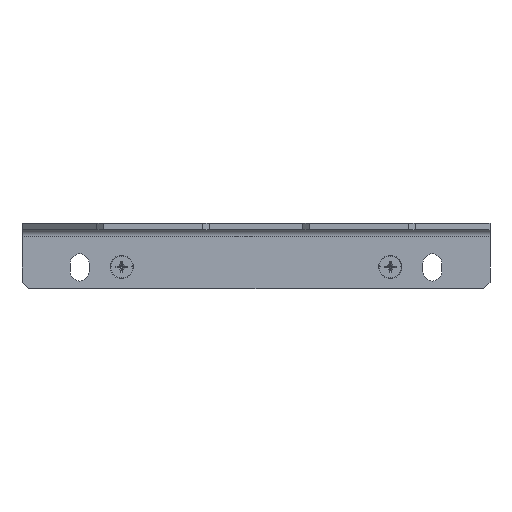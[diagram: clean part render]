
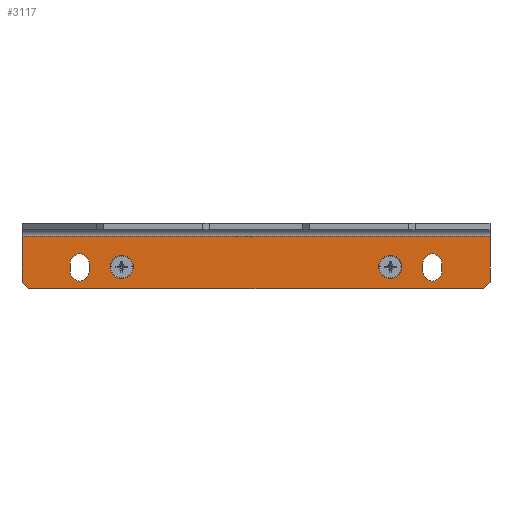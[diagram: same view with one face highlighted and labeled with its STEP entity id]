
A CAD part, left-side view. The second image highlights one B-rep face of the part: STEP entity #3117.
In plain terms, the highlighted planar face has unit normal (-1, 0, 0).
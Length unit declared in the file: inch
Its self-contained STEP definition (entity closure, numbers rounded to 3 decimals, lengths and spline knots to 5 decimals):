
#1067=DIRECTION('',(0.,0.,1.));
#1068=VECTOR('',#1067,0.128);
#1069=CARTESIAN_POINT('',(-0.1,2.486,-0.726));
#1070=LINE('',#1069,#1068);
#1071=CARTESIAN_POINT('',(-0.1,2.625,-0.598));
#1072=DIRECTION('',(-1.,0.,0.));
#1073=DIRECTION('',(0.,-1.,0.));
#1074=AXIS2_PLACEMENT_3D('',#1071,#1072,#1073);
#1076=DIRECTION('',(0.,0.,-1.));
#1077=VECTOR('',#1076,0.128);
#1078=CARTESIAN_POINT('',(-0.1,2.764,-0.598));
#1079=LINE('',#1078,#1077);
#1080=CARTESIAN_POINT('',(-0.1,2.625,-0.726));
#1081=DIRECTION('',(-1.,0.,0.));
#1082=DIRECTION('',(0.,1.,0.));
#1083=AXIS2_PLACEMENT_3D('',#1080,#1081,#1082);
#1085=CARTESIAN_POINT('',(-0.1,-2.625,-0.598));
#1086=DIRECTION('',(-1.,0.,0.));
#1087=DIRECTION('',(0.,-1.,0.));
#1088=AXIS2_PLACEMENT_3D('',#1085,#1086,#1087);
#1090=DIRECTION('',(0.,0.,-1.));
#1091=VECTOR('',#1090,0.128);
#1092=CARTESIAN_POINT('',(-0.1,-2.486,-0.598));
#1093=LINE('',#1092,#1091);
#1094=CARTESIAN_POINT('',(-0.1,-2.625,-0.726));
#1095=DIRECTION('',(-1.,0.,0.));
#1096=DIRECTION('',(0.,1.,0.));
#1097=AXIS2_PLACEMENT_3D('',#1094,#1095,#1096);
#1099=DIRECTION('',(0.,0.,1.));
#1100=VECTOR('',#1099,0.128);
#1101=CARTESIAN_POINT('',(-0.1,-2.764,-0.726));
#1102=LINE('',#1101,#1100);
#1103=DIRECTION('',(0.,-0.707,0.707));
#1104=VECTOR('',#1103,0.14142);
#1105=CARTESIAN_POINT('',(-0.1,-3.385,-0.982));
#1106=LINE('',#1105,#1104);
#1107=DIRECTION('',(0.,-1.,0.));
#1108=VECTOR('',#1107,6.77);
#1109=CARTESIAN_POINT('',(-0.1,3.385,-0.982));
#1110=LINE('',#1109,#1108);
#1111=DIRECTION('',(0.,-0.707,-0.707));
#1112=VECTOR('',#1111,0.14142);
#1113=CARTESIAN_POINT('',(-0.1,3.485,-0.882));
#1114=LINE('',#1113,#1112);
#1115=DIRECTION('',(0.,0.,-1.));
#1116=VECTOR('',#1115,0.682);
#1117=CARTESIAN_POINT('',(-0.1,3.485,-0.2));
#1118=LINE('',#1117,#1116);
#1119=DIRECTION('',(0.,0.,1.));
#1120=VECTOR('',#1119,0.682);
#1121=CARTESIAN_POINT('',(-0.1,-3.485,-0.882));
#1122=LINE('',#1121,#1120);
#1123=CARTESIAN_POINT('',(-0.09999,2.,-0.6547));
#1124=DIRECTION('',(1.,0.,0.));
#1125=DIRECTION('',(0.,0.,1.));
#1126=AXIS2_PLACEMENT_3D('',#1123,#1124,#1125);
#1128=CARTESIAN_POINT('',(-0.09999,2.,-0.6547));
#1129=DIRECTION('',(1.,0.,0.));
#1130=DIRECTION('',(0.,0.,-1.));
#1131=AXIS2_PLACEMENT_3D('',#1128,#1129,#1130);
#1133=CARTESIAN_POINT('',(-0.09999,-2.,-0.6547));
#1134=DIRECTION('',(1.,0.,0.));
#1135=DIRECTION('',(0.,0.,1.));
#1136=AXIS2_PLACEMENT_3D('',#1133,#1134,#1135);
#1138=CARTESIAN_POINT('',(-0.09999,-2.,-0.6547));
#1139=DIRECTION('',(1.,0.,0.));
#1140=DIRECTION('',(0.,0.,-1.));
#1141=AXIS2_PLACEMENT_3D('',#1138,#1139,#1140);
#1191=DIRECTION('',(0.,1.,0.));
#1192=VECTOR('',#1191,6.97);
#1193=CARTESIAN_POINT('',(-0.1,-3.485,-0.2));
#1194=LINE('',#1193,#1192);
#1273=CARTESIAN_POINT('',(-0.1,-3.485,-0.2));
#1274=CARTESIAN_POINT('',(-0.1,3.485,-0.2));
#1275=VERTEX_POINT('',#1273);
#1276=VERTEX_POINT('',#1274);
#1306=CARTESIAN_POINT('',(-0.1,2.764,-0.598));
#1308=VERTEX_POINT('',#1306);
#1310=CARTESIAN_POINT('',(-0.1,2.486,-0.598));
#1312=VERTEX_POINT('',#1310);
#1314=CARTESIAN_POINT('',(-0.1,2.486,-0.726));
#1316=VERTEX_POINT('',#1314);
#1318=CARTESIAN_POINT('',(-0.1,2.764,-0.726));
#1320=VERTEX_POINT('',#1318);
#1322=CARTESIAN_POINT('',(-0.1,-2.486,-0.598));
#1324=VERTEX_POINT('',#1322);
#1326=CARTESIAN_POINT('',(-0.1,-2.764,-0.598));
#1328=VERTEX_POINT('',#1326);
#1330=CARTESIAN_POINT('',(-0.1,-2.764,-0.726));
#1332=VERTEX_POINT('',#1330);
#1334=CARTESIAN_POINT('',(-0.1,-2.486,-0.726));
#1336=VERTEX_POINT('',#1334);
#1597=CARTESIAN_POINT('',(-0.1,-3.385,-0.982));
#1598=VERTEX_POINT('',#1597);
#1599=CARTESIAN_POINT('',(-0.1,-3.485,-0.882));
#1600=VERTEX_POINT('',#1599);
#1605=CARTESIAN_POINT('',(-0.1,3.485,-0.882));
#1606=VERTEX_POINT('',#1605);
#1607=CARTESIAN_POINT('',(-0.1,3.385,-0.982));
#1608=VERTEX_POINT('',#1607);
#1617=CARTESIAN_POINT('',(-0.09999,2.,-0.48249));
#1618=CARTESIAN_POINT('',(-0.09999,2.,-0.82691));
#1619=VERTEX_POINT('',#1617);
#1620=VERTEX_POINT('',#1618);
#1625=CARTESIAN_POINT('',(-0.09999,-2.,-0.48249));
#1626=CARTESIAN_POINT('',(-0.09999,-2.,-0.82691));
#1627=VERTEX_POINT('',#1625);
#1628=VERTEX_POINT('',#1626);
#3070=CARTESIAN_POINT('',(-0.1,3.485,0.));
#3071=DIRECTION('',(-1.,0.,0.));
#3072=DIRECTION('',(0.,1.,0.));
#3073=AXIS2_PLACEMENT_3D('',#3070,#3071,#3072);
#3074=PLANE('',#3073);
#3076=ORIENTED_EDGE('',*,*,#3075,.F.);
#3078=ORIENTED_EDGE('',*,*,#3077,.F.);
#3080=ORIENTED_EDGE('',*,*,#3079,.F.);
#3082=ORIENTED_EDGE('',*,*,#3081,.F.);
#3084=ORIENTED_EDGE('',*,*,#3083,.F.);
#3086=ORIENTED_EDGE('',*,*,#3085,.F.);
#3087=EDGE_LOOP('',(#3076,#3078,#3080,#3082,#3084,#3086));
#3088=FACE_OUTER_BOUND('',#3087,.F.);
#3089=ORIENTED_EDGE('',*,*,#3063,.T.);
#3090=ORIENTED_EDGE('',*,*,#3021,.T.);
#3091=ORIENTED_EDGE('',*,*,#3038,.T.);
#3092=ORIENTED_EDGE('',*,*,#3050,.T.);
#3093=EDGE_LOOP('',(#3089,#3090,#3091,#3092));
#3094=FACE_BOUND('',#3093,.F.);
#3096=ORIENTED_EDGE('',*,*,#3095,.T.);
#3098=ORIENTED_EDGE('',*,*,#3097,.T.);
#3100=ORIENTED_EDGE('',*,*,#3099,.T.);
#3102=ORIENTED_EDGE('',*,*,#3101,.T.);
#3103=EDGE_LOOP('',(#3096,#3098,#3100,#3102));
#3104=FACE_BOUND('',#3103,.F.);
#3106=ORIENTED_EDGE('',*,*,#3105,.F.);
#3108=ORIENTED_EDGE('',*,*,#3107,.F.);
#3109=EDGE_LOOP('',(#3106,#3108));
#3110=FACE_BOUND('',#3109,.F.);
#3112=ORIENTED_EDGE('',*,*,#3111,.F.);
#3114=ORIENTED_EDGE('',*,*,#3113,.F.);
#3115=EDGE_LOOP('',(#3112,#3114));
#3116=FACE_BOUND('',#3115,.F.);
#3117=ADVANCED_FACE('',(#3088,#3094,#3104,#3110,#3116),#3074,.T.);
#1075=CIRCLE('',#1074,0.139);
#1084=CIRCLE('',#1083,0.139);
#1089=CIRCLE('',#1088,0.139);
#1098=CIRCLE('',#1097,0.139);
#1127=CIRCLE('',#1126,0.17221);
#1132=CIRCLE('',#1131,0.17221);
#1137=CIRCLE('',#1136,0.17221);
#1142=CIRCLE('',#1141,0.17221);
#3021=EDGE_CURVE('',#1312,#1308,#1075,.T.);
#3038=EDGE_CURVE('',#1308,#1320,#1079,.T.);
#3050=EDGE_CURVE('',#1320,#1316,#1084,.T.);
#3063=EDGE_CURVE('',#1316,#1312,#1070,.T.);
#3075=EDGE_CURVE('',#1598,#1600,#1106,.T.);
#3077=EDGE_CURVE('',#1608,#1598,#1110,.T.);
#3079=EDGE_CURVE('',#1606,#1608,#1114,.T.);
#3081=EDGE_CURVE('',#1276,#1606,#1118,.T.);
#3083=EDGE_CURVE('',#1275,#1276,#1194,.T.);
#3085=EDGE_CURVE('',#1600,#1275,#1122,.T.);
#3095=EDGE_CURVE('',#1328,#1324,#1089,.T.);
#3097=EDGE_CURVE('',#1324,#1336,#1093,.T.);
#3099=EDGE_CURVE('',#1336,#1332,#1098,.T.);
#3101=EDGE_CURVE('',#1332,#1328,#1102,.T.);
#3105=EDGE_CURVE('',#1619,#1620,#1127,.T.);
#3107=EDGE_CURVE('',#1620,#1619,#1132,.T.);
#3111=EDGE_CURVE('',#1627,#1628,#1137,.T.);
#3113=EDGE_CURVE('',#1628,#1627,#1142,.T.);
